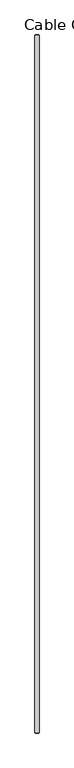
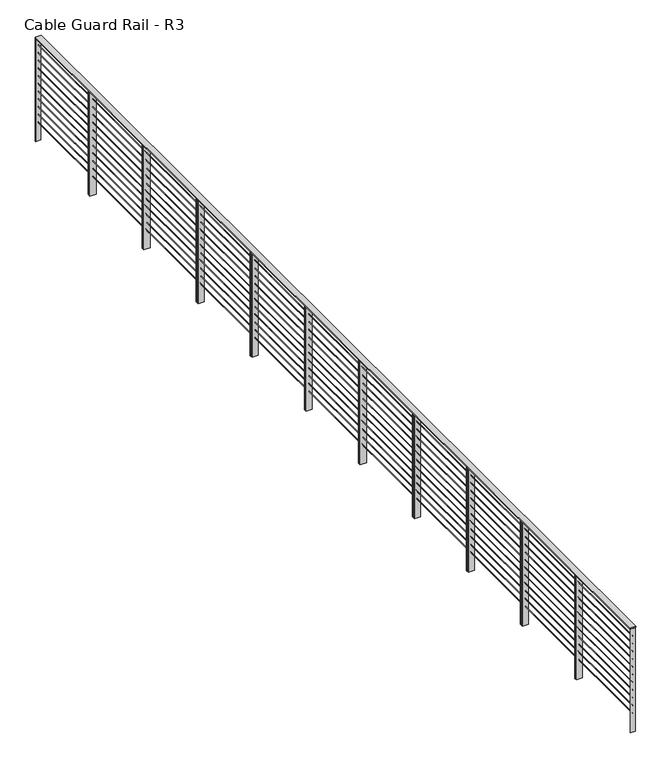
"""IFC4 building model written with IfcOpenShell, lengths in millimetres: railing geometry, Cable Guard Rail - R3."""

import ifcopenshell
import ifcopenshell.guid

model = None  # the IFC model being written
_history = None  # IfcOwnerHistory: only IFC2X3 demands one
_inside = {}  # id of a spatial element -> (the spatial element, [elements in it])
_under = {}  # id of a project, library or spatial element -> (it, [spatial elements below it])
_declared = {}  # id of a project -> (the project, [libraries it declares])
_typed = {}  # id of a type object -> (the type object, [elements of that type])
_made_of = {}  # id of a material, layer set ... -> (it, [elements and type objects made of it])


def new_model(schema):
    """Start an empty IFC model of exactly this schema.

    Asked for "IFC4X3", IfcOpenShell would pick the latest addendum, in which some entities
    have other attributes; the version numbers below select the first issue.
    IFC2X3 requires an IfcOwnerHistory on every rooted entity: one is made here for all.
    """
    global model, _history
    if schema == "IFC4X3":
        model = ifcopenshell.file(schema_version=(4, 3, 0, 0))
    else:
        model = ifcopenshell.file(schema=schema)
    _inside.clear()
    _under.clear()
    _declared.clear()
    _typed.clear()
    _made_of.clear()
    _history = None
    if model.schema == "IFC2X3":
        org = make("IfcOrganization", Name="unknown")
        user = make(
            "IfcPersonAndOrganization",
            ThePerson=make("IfcPerson", FamilyName="unknown"),
            TheOrganization=org,
        )
        app = make(
            "IfcApplication",
            ApplicationDeveloper=org,
            Version="unknown",
            ApplicationFullName="unknown",
            ApplicationIdentifier="unknown",
        )
        _history = make(
            "IfcOwnerHistory",
            OwningUser=user,
            OwningApplication=app,
            ChangeAction="ADDED",
            CreationDate=0,
        )
    return model


def make(cls, **values):
    """One entity of the class cls with the attributes given. An attribute that is None is left unset."""
    return model.create_entity(
        cls, **{name: value for name, value in values.items() if value is not None}
    )


def rooted(cls, **values):
    """An entity with a GlobalId (a new one), such as an element, a storey or a relation."""
    return make(cls, GlobalId=ifcopenshell.guid.new(), OwnerHistory=_history, **values)


def si_unit(unit_type, name, prefix=None):
    """IfcSIUnit, for example si_unit("LENGTHUNIT", "METRE", prefix="MILLI")."""
    return make("IfcSIUnit", UnitType=unit_type, Prefix=prefix, Name=name)


def assignment(units):
    """IfcUnitAssignment: the units of a project."""
    return None if units is None else make("IfcUnitAssignment", Units=units)


def point(xyz):
    """IfcCartesianPoint."""
    return None if xyz is None else make("IfcCartesianPoint", Coordinates=xyz)


def direction(xyz):
    """IfcDirection."""
    return None if xyz is None else make("IfcDirection", DirectionRatios=xyz)


def frame(location, z_axis=None, x_axis=None):
    """IfcAxis2Placement3D, a coordinate frame: its origin and axes. An axis left out is left unset."""
    return make(
        "IfcAxis2Placement3D",
        Location=point(location),
        Axis=direction(z_axis),
        RefDirection=direction(x_axis),
    )


def frame_2d(location, x_axis=None):
    """IfcAxis2Placement2D, a coordinate frame in the plane: its origin and x axis."""
    return make(
        "IfcAxis2Placement2D", Location=point(location), RefDirection=direction(x_axis)
    )


def origin():
    """The frame at (0, 0, 0) with its axes left unset."""
    return frame((0.0, 0.0, 0.0))


def place(relative_to, where):
    """IfcLocalPlacement: puts the frame where relative to a parent placement (None: the world)."""
    return make(
        "IfcLocalPlacement", PlacementRelTo=relative_to, RelativePlacement=where
    )


def context(
    kind, dimensions, precision=None, world=None, true_north=None, identifier=None
):
    """IfcGeometricRepresentationContext, for example the 3D "Model" context."""
    return make(
        "IfcGeometricRepresentationContext",
        ContextIdentifier=identifier,
        ContextType=kind,
        CoordinateSpaceDimension=dimensions,
        Precision=precision,
        WorldCoordinateSystem=world,
        TrueNorth=true_north,
    )


def project(units=None, contexts=None):
    """IfcProject with its units and contexts."""
    return rooted(
        "IfcProject",
        Name="project",
        RepresentationContexts=contexts,
        UnitsInContext=assignment(units),
    )


def spatial(cls, under=None, at=None, **own):
    """A site, building, storey or space (cls), placed at a placement, below another one or the project."""
    s = rooted(cls, ObjectPlacement=at, **own)
    if under is not None:
        _under.setdefault(under.id(), (under, []))[1].append(s)
    return s


def polyline(points):
    """IfcPolyline through the points."""
    return make("IfcPolyline", Points=[point(p) for p in points])


def circle_curve(where, radius):
    """IfcCircle in the frame where."""
    return make("IfcCircle", Position=where, Radius=radius)


def trimmed(basis, trim1, trim2, sense, master):
    """IfcTrimmedCurve: the piece of a basis curve between two trims."""
    return make(
        "IfcTrimmedCurve",
        BasisCurve=basis,
        Trim1=trim1,
        Trim2=trim2,
        SenseAgreement=sense,
        MasterRepresentation=master,
    )


def segment(curve, same_sense, transition):
    """IfcCompositeCurveSegment."""
    return make(
        "IfcCompositeCurveSegment",
        Transition=transition,
        SameSense=same_sense,
        ParentCurve=curve,
    )


def composite_curve(segments, self_intersect=None):
    """IfcCompositeCurve: segments joined end to end."""
    return make("IfcCompositeCurve", Segments=segments, SelfIntersect=self_intersect)


def outline(outer, holes=None, kind="AREA"):
    """IfcArbitraryClosedProfileDef: a profile drawn as a closed curve; with holes, ...WithVoids."""
    if holes is None:
        return make("IfcArbitraryClosedProfileDef", ProfileType=kind, OuterCurve=outer)
    return make(
        "IfcArbitraryProfileDefWithVoids",
        ProfileType=kind,
        OuterCurve=outer,
        InnerCurves=holes,
    )


def extrude(swept, where, along, depth):
    """IfcExtrudedAreaSolid: the profile swept, set in the frame where, extruded along a direction by depth."""
    return make(
        "IfcExtrudedAreaSolid",
        SweptArea=swept,
        Position=where,
        ExtrudedDirection=direction(along),
        Depth=depth,
    )


def shape(context_of_items, identifier, shape_type, items):
    """IfcShapeRepresentation: the items that make up one representation, for example the "Body"."""
    return make(
        "IfcShapeRepresentation",
        ContextOfItems=context_of_items,
        RepresentationIdentifier=identifier,
        RepresentationType=shape_type,
        Items=items,
    )


def source(mapping_origin, context_of_items, identifier, shape_type, items):
    """IfcRepresentationMap: a shape defined once, which mapped items show again and again."""
    return make(
        "IfcRepresentationMap",
        MappingOrigin=mapping_origin,
        MappedRepresentation=shape(context_of_items, identifier, shape_type, items),
    )


def transform(
    local_origin,
    x_axis=None,
    y_axis=None,
    z_axis=None,
    scale=None,
    scale2=None,
    scale3=None,
    uniform=True,
):
    """IfcCartesianTransformationOperator3D, or its non-uniform kind. x_axis, y_axis, z_axis: its Axis1, 2, 3."""
    if uniform:
        return make(
            "IfcCartesianTransformationOperator3D",
            Axis1=direction(x_axis),
            Axis2=direction(y_axis),
            LocalOrigin=point(local_origin),
            Scale=scale,
            Axis3=direction(z_axis),
        )
    return make(
        "IfcCartesianTransformationOperator3DnonUniform",
        Axis1=direction(x_axis),
        Axis2=direction(y_axis),
        LocalOrigin=point(local_origin),
        Scale=scale,
        Axis3=direction(z_axis),
        Scale2=scale2,
        Scale3=scale3,
    )


def mapped(mapping_source, mapping_target):
    """IfcMappedItem: shows the shape of a source again, moved by a transform."""
    return make(
        "IfcMappedItem", MappingSource=mapping_source, MappingTarget=mapping_target
    )


def made_of(thing, what):
    """Note that an element or type object is made of a material, layer set ...; save() writes the relation."""
    if what is not None:
        _made_of.setdefault(what.id(), (what, []))[1].append(thing)
    return thing


def element(
    cls,
    number,
    at=None,
    inside=None,
    cuts=None,
    type_object=None,
    material=None,
    context=None,
    identifier="Body",
    shape_type=None,
    held_by="IfcProductDefinitionShape",
    body=None,
    shapes=None,
    **own,
):
    """One element of the class cls, such as IfcWall. Its Tag is "e" and its number.

    at: its placement. inside: the storey or other place that contains it. cuts: it is an
    opening in that element (IfcRelVoidsElement). A single representation is given by context,
    identifier, shape_type and body (its items); several are given by shapes. held_by: the class
    of the entity that holds the representations. save() writes the other relations.
    """
    e = rooted(cls, Tag="e%d" % number, ObjectPlacement=at, **own)
    if body is not None:
        shapes = [shape(context, identifier, shape_type, body)]
    if shapes is not None:
        e.Representation = make(held_by, Representations=shapes)
    if inside is not None:
        _inside.setdefault(inside.id(), (inside, []))[1].append(e)
    if cuts is not None:
        rooted(
            "IfcRelVoidsElement", RelatingBuildingElement=cuts, RelatedOpeningElement=e
        )
    if type_object is not None:
        _typed.setdefault(type_object.id(), (type_object, []))[1].append(e)
    return made_of(e, material)


def aggregate(whole, parts):
    """IfcRelAggregates: a whole, such as a stair, and the parts it consists of."""
    return rooted("IfcRelAggregates", RelatingObject=whole, RelatedObjects=parts)


def save(model, path):
    """Write the relations noted so far, then the file.

    IfcRelAggregates (storeys below a building ...), IfcRelContainedInSpatialStructure (elements
    in a storey), IfcRelDefinesByType, IfcRelAssociatesMaterial and IfcRelDeclares: one each for
    every whole, place, type object, material and project.
    """
    for whole, parts in _under.values():
        aggregate(whole, parts)
    for where, things in _inside.values():
        rooted(
            "IfcRelContainedInSpatialStructure",
            RelatedElements=things,
            RelatingStructure=where,
        )
    for kind, things in _typed.values():
        rooted("IfcRelDefinesByType", RelatedObjects=things, RelatingType=kind)
    for what, things in _made_of.values():
        rooted("IfcRelAssociatesMaterial", RelatedObjects=things, RelatingMaterial=what)
    for by, libraries in _declared.values():
        rooted("IfcRelDeclares", RelatingContext=by, RelatedDefinitions=libraries)
    model.write(path)


def cable_guard_rail_r3_025c379d(model_context):
    return source(origin(), model_context, "Body", "SweptSolid", [
        extrude(outline(polyline([(22390.8044304, 201063.823934), (22467.0044304, 201063.823934), (22467.0044304, 188223.3241169), (22390.8044304, 188223.3241169), (22390.8044304, 201063.823934)])), frame((0.0, 0.0, 295916.35), z_axis=(0.0, 0.0, 1.0), x_axis=(1.0, 0.0, 0.0)), (0.0, 0.0, 1.0), 12.7),
        extrude(outline(composite_curve([segment(trimmed(circle_curve(frame_2d((295814.75, 22428.9044304)), 3.175), [point((295814.75, 22432.0794304))], [point((295814.75, 22425.7294304))], False, "CARTESIAN"), True, "CONTINUOUS"), segment(trimmed(circle_curve(frame_2d((295814.75, 22428.9044304)), 3.175), [point((295814.75, 22425.7294304))], [point((295814.75, 22432.0794304))], False, "CARTESIAN"), True, "CONTINUOUS")], self_intersect=False)), frame((0.0, 188223.3241169, 0.0), z_axis=(0.0, 1.0, 0.0), x_axis=(0.0, 0.0, 1.0)), (0.0, 0.0, 1.0), 12840.499817),
        extrude(outline(composite_curve([segment(trimmed(circle_curve(frame_2d((295713.15, 22428.9044304)), 3.175), [point((295713.15, 22432.0794304))], [point((295713.15, 22425.7294304))], False, "CARTESIAN"), True, "CONTINUOUS"), segment(trimmed(circle_curve(frame_2d((295713.15, 22428.9044304)), 3.175), [point((295713.15, 22425.7294304))], [point((295713.15, 22432.0794304))], False, "CARTESIAN"), True, "CONTINUOUS")], self_intersect=False)), frame((0.0, 188223.3241169, 0.0), z_axis=(0.0, 1.0, 0.0), x_axis=(0.0, 0.0, 1.0)), (0.0, 0.0, 1.0), 12840.499817),
        extrude(outline(composite_curve([segment(trimmed(circle_curve(frame_2d((295611.55, 22428.9044304)), 3.175), [point((295611.55, 22432.0794304))], [point((295611.55, 22425.7294304))], False, "CARTESIAN"), True, "CONTINUOUS"), segment(trimmed(circle_curve(frame_2d((295611.55, 22428.9044304)), 3.175), [point((295611.55, 22425.7294304))], [point((295611.55, 22432.0794304))], False, "CARTESIAN"), True, "CONTINUOUS")], self_intersect=False)), frame((0.0, 188223.3241169, 0.0), z_axis=(0.0, 1.0, 0.0), x_axis=(0.0, 0.0, 1.0)), (0.0, 0.0, 1.0), 12840.499817),
        extrude(outline(composite_curve([segment(trimmed(circle_curve(frame_2d((295509.95, 22428.9044304)), 3.175), [point((295509.95, 22432.0794304))], [point((295509.95, 22425.7294304))], False, "CARTESIAN"), True, "CONTINUOUS"), segment(trimmed(circle_curve(frame_2d((295509.95, 22428.9044304)), 3.175), [point((295509.95, 22425.7294304))], [point((295509.95, 22432.0794304))], False, "CARTESIAN"), True, "CONTINUOUS")], self_intersect=False)), frame((0.0, 188223.3241169, 0.0), z_axis=(0.0, 1.0, 0.0), x_axis=(0.0, 0.0, 1.0)), (0.0, 0.0, 1.0), 12840.499817),
        extrude(outline(composite_curve([segment(trimmed(circle_curve(frame_2d((295408.35, 22428.9044304)), 3.175), [point((295408.35, 22432.0794304))], [point((295408.35, 22425.7294304))], False, "CARTESIAN"), True, "CONTINUOUS"), segment(trimmed(circle_curve(frame_2d((295408.35, 22428.9044304)), 3.175), [point((295408.35, 22425.7294304))], [point((295408.35, 22432.0794304))], False, "CARTESIAN"), True, "CONTINUOUS")], self_intersect=False)), frame((0.0, 188223.3241169, 0.0), z_axis=(0.0, 1.0, 0.0), x_axis=(0.0, 0.0, 1.0)), (0.0, 0.0, 1.0), 12840.499817),
        extrude(outline(composite_curve([segment(trimmed(circle_curve(frame_2d((295306.75, 22428.9044304)), 3.175), [point((295306.75, 22432.0794304))], [point((295306.75, 22425.7294304))], False, "CARTESIAN"), True, "CONTINUOUS"), segment(trimmed(circle_curve(frame_2d((295306.75, 22428.9044304)), 3.175), [point((295306.75, 22425.7294304))], [point((295306.75, 22432.0794304))], False, "CARTESIAN"), True, "CONTINUOUS")], self_intersect=False)), frame((0.0, 188223.3241169, 0.0), z_axis=(0.0, 1.0, 0.0), x_axis=(0.0, 0.0, 1.0)), (0.0, 0.0, 1.0), 12840.499817),
        extrude(outline(composite_curve([segment(trimmed(circle_curve(frame_2d((295205.15, 22428.9044304)), 3.175), [point((295205.15, 22432.0794304))], [point((295205.15, 22425.7294304))], False, "CARTESIAN"), True, "CONTINUOUS"), segment(trimmed(circle_curve(frame_2d((295205.15, 22428.9044304)), 3.175), [point((295205.15, 22425.7294304))], [point((295205.15, 22432.0794304))], False, "CARTESIAN"), True, "CONTINUOUS")], self_intersect=False)), frame((0.0, 188223.3241169, 0.0), z_axis=(0.0, 1.0, 0.0), x_axis=(0.0, 0.0, 1.0)), (0.0, 0.0, 1.0), 12840.499817),
        extrude(outline(composite_curve([segment(trimmed(circle_curve(frame_2d((295103.55, 22428.9044304)), 3.175), [point((295103.55, 22432.0794304))], [point((295103.55, 22425.7294304))], False, "CARTESIAN"), True, "CONTINUOUS"), segment(trimmed(circle_curve(frame_2d((295103.55, 22428.9044304)), 3.175), [point((295103.55, 22425.7294304))], [point((295103.55, 22432.0794304))], False, "CARTESIAN"), True, "CONTINUOUS")], self_intersect=False)), frame((0.0, 188223.3241169, 0.0), z_axis=(0.0, 1.0, 0.0), x_axis=(0.0, 0.0, 1.0)), (0.0, 0.0, 1.0), 12840.499817),
        extrude(outline(composite_curve([segment(trimmed(circle_curve(frame_2d((295001.95, 22428.9044304)), 3.175), [point((295001.95, 22432.0794304))], [point((295001.95, 22425.7294304))], False, "CARTESIAN"), True, "CONTINUOUS"), segment(trimmed(circle_curve(frame_2d((295001.95, 22428.9044304)), 3.175), [point((295001.95, 22425.7294304))], [point((295001.95, 22432.0794304))], False, "CARTESIAN"), True, "CONTINUOUS")], self_intersect=False)), frame((0.0, 188223.3241169, 0.0), z_axis=(0.0, 1.0, 0.0), x_axis=(0.0, 0.0, 1.0)), (0.0, 0.0, 1.0), 12840.499817),
        extrude(outline(composite_curve([segment(trimmed(circle_curve(frame_2d((294900.35, 22428.9044304)), 3.175), [point((294900.35, 22432.0794304))], [point((294900.35, 22425.7294304))], False, "CARTESIAN"), True, "CONTINUOUS"), segment(trimmed(circle_curve(frame_2d((294900.35, 22428.9044304)), 3.175), [point((294900.35, 22425.7294304))], [point((294900.35, 22432.0794304))], False, "CARTESIAN"), True, "CONTINUOUS")], self_intersect=False)), frame((0.0, 188223.3241169, 0.0), z_axis=(0.0, 1.0, 0.0), x_axis=(0.0, 0.0, 1.0)), (0.0, 0.0, 1.0), 12840.499817),
        extrude(outline(composite_curve([segment(trimmed(circle_curve(frame_2d((294798.75, 22428.9044304)), 3.175), [point((294798.75, 22432.0794304))], [point((294798.75, 22425.7294304))], False, "CARTESIAN"), True, "CONTINUOUS"), segment(trimmed(circle_curve(frame_2d((294798.75, 22428.9044304)), 3.175), [point((294798.75, 22425.7294304))], [point((294798.75, 22432.0794304))], False, "CARTESIAN"), True, "CONTINUOUS")], self_intersect=False)), frame((0.0, 188223.3241169, 0.0), z_axis=(0.0, 1.0, 0.0), x_axis=(0.0, 0.0, 1.0)), (0.0, 0.0, 1.0), 12840.499817),
        extrude(outline(polyline([(22467.0044304, 189412.8672821), (22467.0044304, 189403.3422821), (22390.8044304, 189403.3422821), (22390.8044304, 189412.8672821), (22467.0044304, 189412.8672821)])), frame((0.0, 0.0, 294551.1), z_axis=(0.0, 0.0, 1.0), x_axis=(1.0, 0.0, 0.0)), (0.0, 0.0, 1.0), 1365.25),
        extrude(outline(polyline([(22467.0044304, 189384.2922821), (22467.0044304, 189374.8155175), (22390.8044304, 189374.8155175), (22390.8044304, 189384.2922821), (22467.0044304, 189384.2922821)])), frame((0.0, 0.0, 294551.1), z_axis=(0.0, 0.0, 1.0), x_axis=(1.0, 0.0, 0.0)), (0.0, 0.0, 1.0), 1365.25),
        extrude(outline(polyline([(22467.0044304, 190580.1854473), (22467.0044304, 190570.6604473), (22390.8044304, 190570.6604473), (22390.8044304, 190580.1854473), (22467.0044304, 190580.1854473)])), frame((0.0, 0.0, 294551.1), z_axis=(0.0, 0.0, 1.0), x_axis=(1.0, 0.0, 0.0)), (0.0, 0.0, 1.0), 1365.25),
        extrude(outline(polyline([(22467.0044304, 190551.6104473), (22467.0044304, 190542.1336827), (22390.8044304, 190542.1336827), (22390.8044304, 190551.6104473), (22467.0044304, 190551.6104473)])), frame((0.0, 0.0, 294551.1), z_axis=(0.0, 0.0, 1.0), x_axis=(1.0, 0.0, 0.0)), (0.0, 0.0, 1.0), 1365.25),
        extrude(outline(polyline([(22467.0044304, 191747.5036125), (22467.0044304, 191737.9786125), (22390.8044304, 191737.9786125), (22390.8044304, 191747.5036125), (22467.0044304, 191747.5036125)])), frame((0.0, 0.0, 294551.1), z_axis=(0.0, 0.0, 1.0), x_axis=(1.0, 0.0, 0.0)), (0.0, 0.0, 1.0), 1365.25),
        extrude(outline(polyline([(22467.0044304, 191718.9286125), (22467.0044304, 191709.4518479), (22390.8044304, 191709.4518479), (22390.8044304, 191718.9286125), (22467.0044304, 191718.9286125)])), frame((0.0, 0.0, 294551.1), z_axis=(0.0, 0.0, 1.0), x_axis=(1.0, 0.0, 0.0)), (0.0, 0.0, 1.0), 1365.25),
        extrude(outline(polyline([(22467.0044304, 192914.8217777), (22467.0044304, 192905.2967777), (22390.8044304, 192905.2967777), (22390.8044304, 192914.8217777), (22467.0044304, 192914.8217777)])), frame((0.0, 0.0, 294551.1), z_axis=(0.0, 0.0, 1.0), x_axis=(1.0, 0.0, 0.0)), (0.0, 0.0, 1.0), 1365.25),
        extrude(outline(polyline([(22467.0044304, 192886.2467777), (22467.0044304, 192876.770013), (22390.8044304, 192876.770013), (22390.8044304, 192886.2467777), (22467.0044304, 192886.2467777)])), frame((0.0, 0.0, 294551.1), z_axis=(0.0, 0.0, 1.0), x_axis=(1.0, 0.0, 0.0)), (0.0, 0.0, 1.0), 1365.25),
        extrude(outline(polyline([(22467.0044304, 194082.1399428), (22467.0044304, 194072.6149428), (22390.8044304, 194072.6149428), (22390.8044304, 194082.1399428), (22467.0044304, 194082.1399428)])), frame((0.0, 0.0, 294551.1), z_axis=(0.0, 0.0, 1.0), x_axis=(1.0, 0.0, 0.0)), (0.0, 0.0, 1.0), 1365.25),
        extrude(outline(polyline([(22467.0044304, 194053.5649428), (22467.0044304, 194044.0881782), (22390.8044304, 194044.0881782), (22390.8044304, 194053.5649428), (22467.0044304, 194053.5649428)])), frame((0.0, 0.0, 294551.1), z_axis=(0.0, 0.0, 1.0), x_axis=(1.0, 0.0, 0.0)), (0.0, 0.0, 1.0), 1365.25),
        extrude(outline(polyline([(22467.0044304, 195249.458108), (22467.0044304, 195239.933108), (22390.8044304, 195239.933108), (22390.8044304, 195249.458108), (22467.0044304, 195249.458108)])), frame((0.0, 0.0, 294551.1), z_axis=(0.0, 0.0, 1.0), x_axis=(1.0, 0.0, 0.0)), (0.0, 0.0, 1.0), 1365.25),
        extrude(outline(polyline([(22467.0044304, 195220.883108), (22467.0044304, 195211.4063434), (22390.8044304, 195211.4063434), (22390.8044304, 195220.883108), (22467.0044304, 195220.883108)])), frame((0.0, 0.0, 294551.1), z_axis=(0.0, 0.0, 1.0), x_axis=(1.0, 0.0, 0.0)), (0.0, 0.0, 1.0), 1365.25),
        extrude(outline(polyline([(22467.0044304, 196416.7762732), (22467.0044304, 196407.2512732), (22390.8044304, 196407.2512732), (22390.8044304, 196416.7762732), (22467.0044304, 196416.7762732)])), frame((0.0, 0.0, 294551.1), z_axis=(0.0, 0.0, 1.0), x_axis=(1.0, 0.0, 0.0)), (0.0, 0.0, 1.0), 1365.25),
        extrude(outline(polyline([(22467.0044304, 196388.2012732), (22467.0044304, 196378.7245086), (22390.8044304, 196378.7245086), (22390.8044304, 196388.2012732), (22467.0044304, 196388.2012732)])), frame((0.0, 0.0, 294551.1), z_axis=(0.0, 0.0, 1.0), x_axis=(1.0, 0.0, 0.0)), (0.0, 0.0, 1.0), 1365.25),
        extrude(outline(polyline([(22467.0044304, 197584.0944384), (22467.0044304, 197574.5694384), (22390.8044304, 197574.5694384), (22390.8044304, 197584.0944384), (22467.0044304, 197584.0944384)])), frame((0.0, 0.0, 294551.1), z_axis=(0.0, 0.0, 1.0), x_axis=(1.0, 0.0, 0.0)), (0.0, 0.0, 1.0), 1365.25),
        extrude(outline(polyline([(22467.0044304, 197555.5194384), (22467.0044304, 197546.0426738), (22390.8044304, 197546.0426738), (22390.8044304, 197555.5194384), (22467.0044304, 197555.5194384)])), frame((0.0, 0.0, 294551.1), z_axis=(0.0, 0.0, 1.0), x_axis=(1.0, 0.0, 0.0)), (0.0, 0.0, 1.0), 1365.25),
        extrude(outline(polyline([(22467.0044304, 198751.4126036), (22467.0044304, 198741.8876036), (22390.8044304, 198741.8876036), (22390.8044304, 198751.4126036), (22467.0044304, 198751.4126036)])), frame((0.0, 0.0, 294551.1), z_axis=(0.0, 0.0, 1.0), x_axis=(1.0, 0.0, 0.0)), (0.0, 0.0, 1.0), 1365.25),
        extrude(outline(polyline([(22467.0044304, 198722.8376036), (22467.0044304, 198713.360839), (22390.8044304, 198713.360839), (22390.8044304, 198722.8376036), (22467.0044304, 198722.8376036)])), frame((0.0, 0.0, 294551.1), z_axis=(0.0, 0.0, 1.0), x_axis=(1.0, 0.0, 0.0)), (0.0, 0.0, 1.0), 1365.25),
        extrude(outline(polyline([(22467.0044304, 199918.7307688), (22467.0044304, 199909.2057688), (22390.8044304, 199909.2057688), (22390.8044304, 199918.7307688), (22467.0044304, 199918.7307688)])), frame((0.0, 0.0, 294551.1), z_axis=(0.0, 0.0, 1.0), x_axis=(1.0, 0.0, 0.0)), (0.0, 0.0, 1.0), 1365.25),
        extrude(outline(polyline([(22467.0044304, 199890.1557688), (22467.0044304, 199880.6790042), (22390.8044304, 199880.6790042), (22390.8044304, 199890.1557688), (22467.0044304, 199890.1557688)])), frame((0.0, 0.0, 294551.1), z_axis=(0.0, 0.0, 1.0), x_axis=(1.0, 0.0, 0.0)), (0.0, 0.0, 1.0), 1365.25),
        extrude(outline(polyline([(22460.6544304, 188226.4991169), (22460.6544304, 188220.1491169), (22397.1544304, 188220.1491169), (22397.1544304, 188226.4991169), (22460.6544304, 188226.4991169)])), frame((0.0, 0.0, 294551.1), z_axis=(0.0, 0.0, 1.0), x_axis=(1.0, 0.0, 0.0)), (0.0, 0.0, 1.0), 1365.25),
        extrude(outline(polyline([(22460.6544304, 201066.998934), (22460.6544304, 201060.648934), (22397.1544304, 201060.648934), (22397.1544304, 201066.998934), (22460.6544304, 201066.998934)])), frame((0.0, 0.0, 294551.1), z_axis=(0.0, 0.0, 1.0), x_axis=(1.0, 0.0, 0.0)), (0.0, 0.0, 1.0), 1365.25),
    ])


if __name__ == "__main__":
    model = new_model("IFC4")
    model_context = context("Model", 3, world=origin())
    ifc_project = project(units=[si_unit("LENGTHUNIT", "METRE", prefix="MILLI")], contexts=[model_context])
    site = spatial("IfcSite", under=ifc_project)
    building = spatial("IfcBuilding", under=site)
    placement = place(None, origin())
    cable_guard_rail_r3_shape = cable_guard_rail_r3_025c379d(model_context)
    element("IfcRailing", 1, ObjectType="Cable Guard Rail - R3", at=placement, inside=building, context=model_context, shape_type="MappedRepresentation", body=[
        mapped(cable_guard_rail_r3_shape, transform((0.0, 0.0, 0.0), x_axis=(1.0, 0.0, 0.0), y_axis=(0.0, 1.0, 0.0), z_axis=(0.0, 0.0, 1.0))),
    ])
    save(model, "model.ifc")
